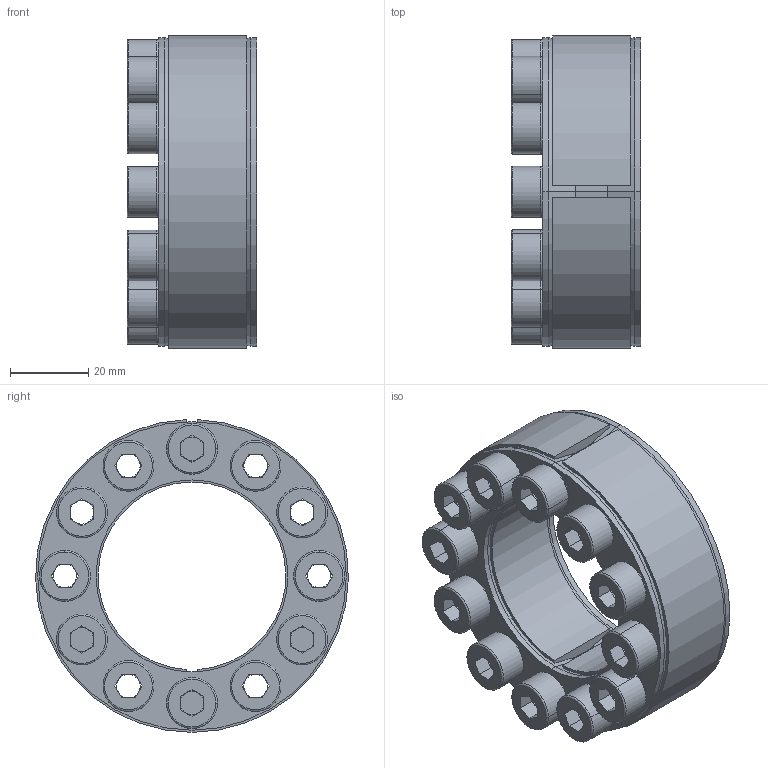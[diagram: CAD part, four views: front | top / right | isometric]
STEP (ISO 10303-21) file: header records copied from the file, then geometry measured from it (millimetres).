
FILE_DESCRIPTION (( 'STEP AP203' ), '1' );
FILE_NAME ('D1-48-80 Assy.STEP', '2017-10-11T03:23:19', ( 'MYCOM' ), ( '' ), 'SwSTEP 2.0', 'SolidWorks 2015', '' );
FILE_SCHEMA (( 'CONFIG_CONTROL_DESIGN' ));
Length unit declared in the file: millimetre
Products named in the file (1): D1-48-80 Assy
Bounding box: 33.14 x 79.99 x 79.97 mm (x, y, z)
Surface area: 34685.4 mm2 (no closed solid volume)
Topology: 0 solids, 20 shells, 290 faces, 780 edges, 490 vertices
Faces by surface type: plane 150, cylinder 83, torus 48, cone 9
Entity records: 9207 total; most frequent: DIRECTION 1733, CARTESIAN_POINT 1597, ORIENTED_EDGE 1376, EDGE_CURVE 780, AXIS2_PLACEMENT_3D 670, VERTEX_POINT 490, VECTOR 393, LINE 393
